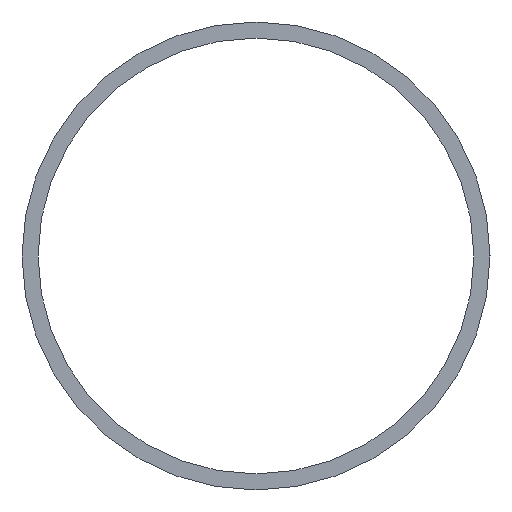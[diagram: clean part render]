
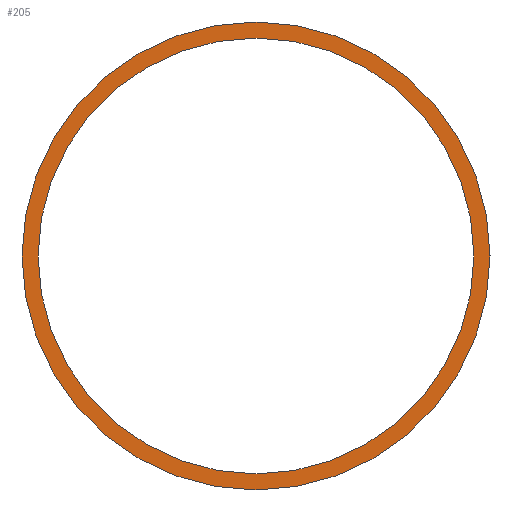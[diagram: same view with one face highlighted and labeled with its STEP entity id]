
A CAD part, left-side view. The second image highlights one B-rep face of the part: STEP entity #205.
In plain terms, the highlighted planar face has unit normal (-1, 0, 0).
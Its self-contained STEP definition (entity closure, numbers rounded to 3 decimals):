
#44 = VERTEX_POINT('',#45);
#45 = CARTESIAN_POINT('',(114.3,44.45,-553.3));
#54 = CYLINDRICAL_SURFACE('',#55,44.45);
#55 = AXIS2_PLACEMENT_3D('',#56,#57,#58);
#56 = CARTESIAN_POINT('',(114.3,0.,-553.3));
#57 = DIRECTION('',(-1.,-0.,-0.));
#58 = DIRECTION('',(0.,1.,0.));
#101 = EDGE_CURVE('',#44,#44,#102,.T.);
#102 = SURFACE_CURVE('',#103,(#108,#115),.PCURVE_S1.);
#103 = CIRCLE('',#104,44.45);
#104 = AXIS2_PLACEMENT_3D('',#105,#106,#107);
#105 = CARTESIAN_POINT('',(114.3,0.,-553.3));
#106 = DIRECTION('',(1.,0.,0.));
#107 = DIRECTION('',(0.,1.,0.));
#108 = PCURVE('',#54,#109);
#109 = DEFINITIONAL_REPRESENTATION('',(#110),#114);
#110 = LINE('',#111,#112);
#111 = CARTESIAN_POINT('',(-0.,0.));
#112 = VECTOR('',#113,1.);
#113 = DIRECTION('',(-1.,0.));
#114 = ( GEOMETRIC_REPRESENTATION_CONTEXT(2) 
PARAMETRIC_REPRESENTATION_CONTEXT() REPRESENTATION_CONTEXT('2D SPACE',''
  ) );
#115 = PCURVE('',#116,#121);
#116 = PLANE('',#117);
#117 = AXIS2_PLACEMENT_3D('',#118,#119,#120);
#118 = CARTESIAN_POINT('',(114.3,0.,-553.3));
#119 = DIRECTION('',(1.,0.,0.));
#120 = DIRECTION('',(-0.,0.,1.));
#121 = DEFINITIONAL_REPRESENTATION('',(#122),#126);
#122 = CIRCLE('',#123,44.45);
#123 = AXIS2_PLACEMENT_2D('',#124,#125);
#124 = CARTESIAN_POINT('',(0.,0.));
#125 = DIRECTION('',(0.,-1.));
#126 = ( GEOMETRIC_REPRESENTATION_CONTEXT(2) 
PARAMETRIC_REPRESENTATION_CONTEXT() REPRESENTATION_CONTEXT('2D SPACE',''
  ) );
#132 = VERTEX_POINT('',#133);
#133 = CARTESIAN_POINT('',(114.3,41.4,-553.3));
#142 = CYLINDRICAL_SURFACE('',#143,41.4);
#143 = AXIS2_PLACEMENT_3D('',#144,#145,#146);
#144 = CARTESIAN_POINT('',(114.3,0.,-553.3));
#145 = DIRECTION('',(-1.,-0.,-0.));
#146 = DIRECTION('',(0.,1.,0.));
#184 = EDGE_CURVE('',#132,#132,#185,.T.);
#185 = SURFACE_CURVE('',#186,(#191,#198),.PCURVE_S1.);
#186 = CIRCLE('',#187,41.4);
#187 = AXIS2_PLACEMENT_3D('',#188,#189,#190);
#188 = CARTESIAN_POINT('',(114.3,0.,-553.3));
#189 = DIRECTION('',(1.,0.,0.));
#190 = DIRECTION('',(0.,1.,0.));
#191 = PCURVE('',#142,#192);
#192 = DEFINITIONAL_REPRESENTATION('',(#193),#197);
#193 = LINE('',#194,#195);
#194 = CARTESIAN_POINT('',(-0.,0.));
#195 = VECTOR('',#196,1.);
#196 = DIRECTION('',(-1.,0.));
#197 = ( GEOMETRIC_REPRESENTATION_CONTEXT(2) 
PARAMETRIC_REPRESENTATION_CONTEXT() REPRESENTATION_CONTEXT('2D SPACE',''
  ) );
#198 = PCURVE('',#116,#199);
#199 = DEFINITIONAL_REPRESENTATION('',(#200),#204);
#200 = CIRCLE('',#201,41.4);
#201 = AXIS2_PLACEMENT_2D('',#202,#203);
#202 = CARTESIAN_POINT('',(0.,0.));
#203 = DIRECTION('',(0.,-1.));
#204 = ( GEOMETRIC_REPRESENTATION_CONTEXT(2) 
PARAMETRIC_REPRESENTATION_CONTEXT() REPRESENTATION_CONTEXT('2D SPACE',''
  ) );
#205 = ADVANCED_FACE('',(#206,#209),#116,.F.);
#206 = FACE_BOUND('',#207,.F.);
#207 = EDGE_LOOP('',(#208));
#208 = ORIENTED_EDGE('',*,*,#101,.T.);
#209 = FACE_BOUND('',#210,.F.);
#210 = EDGE_LOOP('',(#211));
#211 = ORIENTED_EDGE('',*,*,#184,.F.);
